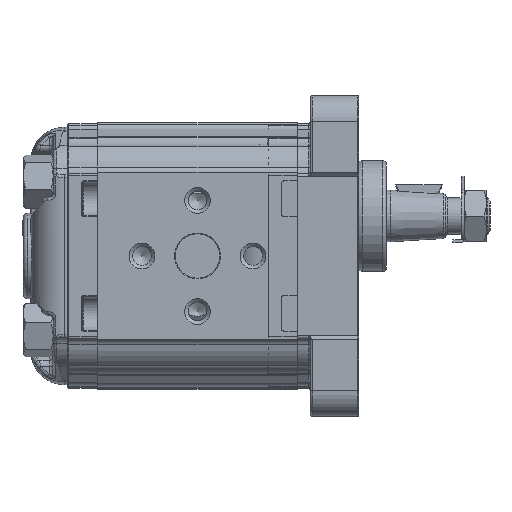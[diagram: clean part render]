
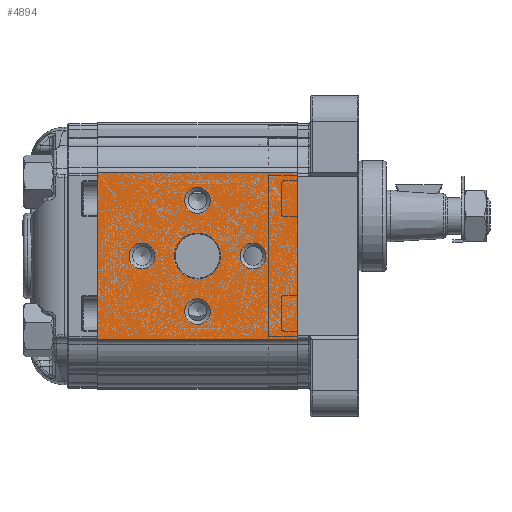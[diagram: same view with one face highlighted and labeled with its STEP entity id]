
A CAD part, left-side view. The second image highlights one B-rep face of the part: STEP entity #4894.
In plain terms, the highlighted planar face has unit normal (-1, 0, 0) as drawn and (1, 0, 0) by its records, which use the part's own axes.
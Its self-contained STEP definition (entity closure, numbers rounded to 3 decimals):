
#4894 = ADVANCED_FACE( '', ( #10573, #10574, #10575, #10576, #10577, #10578 ), #10579, .T. );
#10573 = FACE_BOUND( '', #19266, .T. );
#10574 = FACE_BOUND( '', #19267, .T. );
#10575 = FACE_BOUND( '', #19268, .T. );
#10576 = FACE_BOUND( '', #19269, .T. );
#10577 = FACE_BOUND( '', #19270, .T. );
#10578 = FACE_OUTER_BOUND( '', #19271, .T. );
#10579 = PLANE( '', #19272 );
#19266 = EDGE_LOOP( '', ( #34515 ) );
#19267 = EDGE_LOOP( '', ( #34516 ) );
#19268 = EDGE_LOOP( '', ( #34517 ) );
#19269 = EDGE_LOOP( '', ( #34518 ) );
#19270 = EDGE_LOOP( '', ( #34519 ) );
#19271 = EDGE_LOOP( '', ( #34520, #34521, #34522, #34523 ) );
#19272 = AXIS2_PLACEMENT_3D( '', #34524, #34525, #34526 );
#34515 = ORIENTED_EDGE( '', *, *, #44842, .T. );
#34516 = ORIENTED_EDGE( '', *, *, #42202, .T. );
#34517 = ORIENTED_EDGE( '', *, *, #39608, .T. );
#34518 = ORIENTED_EDGE( '', *, *, #44494, .T. );
#34519 = ORIENTED_EDGE( '', *, *, #39870, .T. );
#34520 = ORIENTED_EDGE( '', *, *, #45396, .T. );
#34521 = ORIENTED_EDGE( '', *, *, #42328, .T. );
#34522 = ORIENTED_EDGE( '', *, *, #45397, .T. );
#34523 = ORIENTED_EDGE( '', *, *, #40256, .F. );
#34524 = CARTESIAN_POINT( '', ( 33., 129.534, -45.494 ) );
#34525 = DIRECTION( '', ( 1., 0., 0. ) );
#34526 = DIRECTION( '', ( 0., 0., -1. ) );
#39608 = EDGE_CURVE( '', #46674, #46674, #46675, .F. );
#39870 = EDGE_CURVE( '', #47135, #47135, #47136, .F. );
#40256 = EDGE_CURVE( '', #47809, #47811, #47812, .T. );
#42202 = EDGE_CURVE( '', #50958, #50958, #50959, .F. );
#42328 = EDGE_CURVE( '', #51158, #51156, #51159, .T. );
#44494 = EDGE_CURVE( '', #54218, #54218, #54219, .F. );
#44842 = EDGE_CURVE( '', #54638, #54638, #54639, .F. );
#45396 = EDGE_CURVE( '', #47809, #51158, #55291, .T. );
#45397 = EDGE_CURVE( '', #51156, #47811, #55292, .F. );
#46674 = VERTEX_POINT( '', #56806 );
#46675 = CIRCLE( '', #56807, 3.5 );
#47135 = VERTEX_POINT( '', #57817 );
#47136 = CIRCLE( '', #57818, 3.5 );
#47809 = VERTEX_POINT( '', #58998 );
#47811 = VERTEX_POINT( '', #59000 );
#47812 = LINE( '', #59001, #59002 );
#50958 = VERTEX_POINT( '', #65644 );
#50959 = CIRCLE( '', #65645, 3.5 );
#51156 = VERTEX_POINT( '', #65992 );
#51158 = VERTEX_POINT( '', #65994 );
#51159 = LINE( '', #65995, #65996 );
#54218 = VERTEX_POINT( '', #72236 );
#54219 = CIRCLE( '', #72237, 3.5 );
#54638 = VERTEX_POINT( '', #73052 );
#54639 = CIRCLE( '', #73053, 6.2 );
#55291 = LINE( '', #74318, #74319 );
#55292 = LINE( '', #74320, #74321 );
#56806 = CARTESIAN_POINT( '', ( 33., 42., -3.5 ) );
#56807 = AXIS2_PLACEMENT_3D( '', #76125, #76126, #76127 );
#57817 = CARTESIAN_POINT( '', ( 33., 12., -3.5 ) );
#57818 = AXIS2_PLACEMENT_3D( '', #76462, #76463, #76464 );
#58998 = CARTESIAN_POINT( '', ( 33., 54., 22.5 ) );
#59000 = CARTESIAN_POINT( '', ( 33., 54., -22.5 ) );
#59001 = CARTESIAN_POINT( '', ( 33., 54., -21.711 ) );
#59002 = VECTOR( '', #76959, 1000. );
#65644 = CARTESIAN_POINT( '', ( 33., 27., -18.5 ) );
#65645 = AXIS2_PLACEMENT_3D( '', #79334, #79335, #79336 );
#65992 = CARTESIAN_POINT( '', ( 33., 0., -22.5 ) );
#65994 = CARTESIAN_POINT( '', ( 33., 0., 22.5 ) );
#65995 = CARTESIAN_POINT( '', ( 33., 0., -21.711 ) );
#65996 = VECTOR( '', #79503, 1000. );
#72236 = CARTESIAN_POINT( '', ( 33., 27., 11.5 ) );
#72237 = AXIS2_PLACEMENT_3D( '', #81951, #81952, #81953 );
#73052 = CARTESIAN_POINT( '', ( 33., 27., -6.2 ) );
#73053 = AXIS2_PLACEMENT_3D( '', #82262, #82263, #82264 );
#74318 = CARTESIAN_POINT( '', ( 33., 54., 22.5 ) );
#74319 = VECTOR( '', #82794, 1000. );
#74320 = CARTESIAN_POINT( '', ( 33., 54., -22.5 ) );
#74321 = VECTOR( '', #82795, 1000. );
#76125 = CARTESIAN_POINT( '', ( 33., 42., 0. ) );
#76126 = DIRECTION( '', ( 1., 0., 0. ) );
#76127 = DIRECTION( '', ( 0., 0., -1. ) );
#76462 = CARTESIAN_POINT( '', ( 33., 12., 0. ) );
#76463 = DIRECTION( '', ( 1., 0., 0. ) );
#76464 = DIRECTION( '', ( 0., 0., -1. ) );
#76959 = DIRECTION( '', ( 0., 0., -1. ) );
#79334 = CARTESIAN_POINT( '', ( 33., 27., -15. ) );
#79335 = DIRECTION( '', ( 1., 0., 0. ) );
#79336 = DIRECTION( '', ( 0., 0., -1. ) );
#79503 = DIRECTION( '', ( 0., 0., -1. ) );
#81951 = CARTESIAN_POINT( '', ( 33., 27., 15. ) );
#81952 = DIRECTION( '', ( 1., 0., 0. ) );
#81953 = DIRECTION( '', ( 0., 0., -1. ) );
#82262 = CARTESIAN_POINT( '', ( 33., 27., 0. ) );
#82263 = DIRECTION( '', ( 1., 0., 0. ) );
#82264 = DIRECTION( '', ( 0., 0., -1. ) );
#82794 = DIRECTION( '', ( 0., -1., 0. ) );
#82795 = DIRECTION( '', ( 0., -1., 0. ) );
